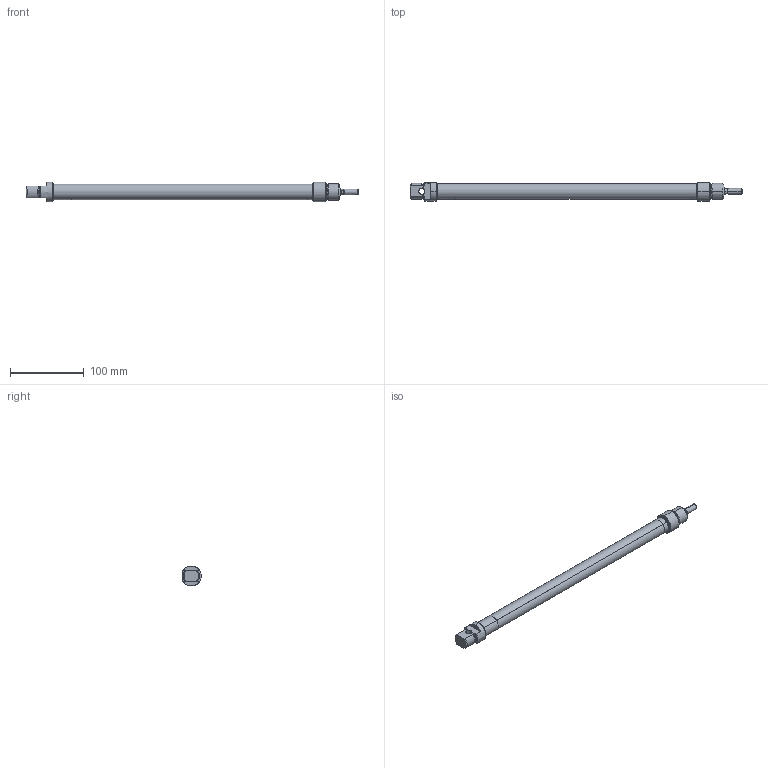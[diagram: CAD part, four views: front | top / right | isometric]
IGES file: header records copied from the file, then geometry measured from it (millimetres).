
Start section: SolidWorks IGES file using analytic representation for surfaces
Global section: file name: K:\Disegni Esecutivi\Cilindri\2_DISEGNI_cilindri_in_produzione\2_Minicilindri ISO 6432\1Minisolidworks\5_minicilindri iso 6432_20 solidworks\complessivi solid 20\20cplx3d\MF020\MF020_PIENO\MF0200320A.igs; native system: SolidWorks 2011; preprocessor: SolidWorks 2011; author: cad01; date: 110505.180951; units: millimetre
Bounding box: 451.5 x 25.2 x 27 mm (x, y, z)
Surface area: 60854.6 mm2 (no closed solid volume)
Topology: 0 solids, 0 shells, 108 faces, 1661 edges, 1659 vertices
Faces by surface type: revolution 71, bspline 37
